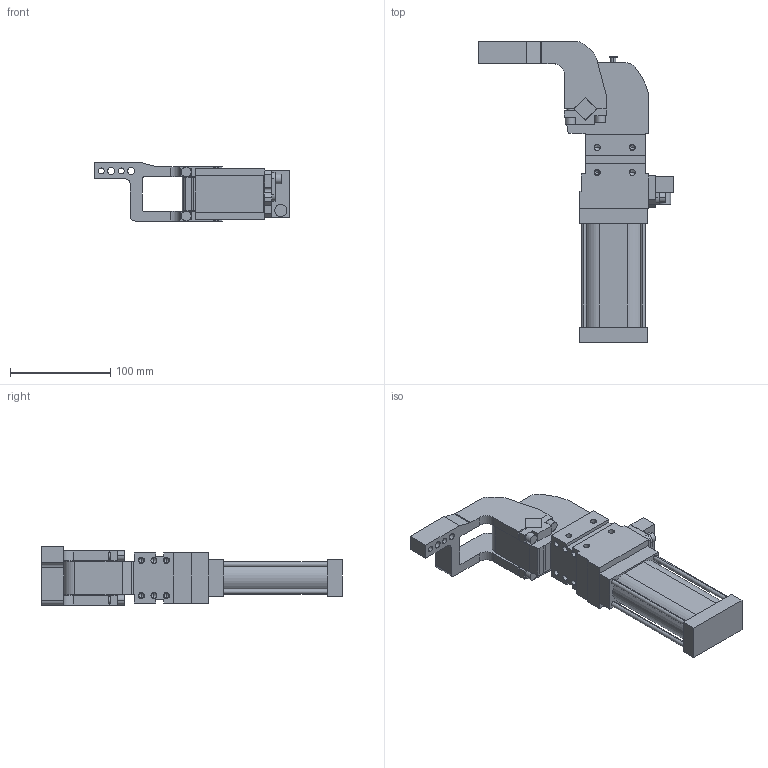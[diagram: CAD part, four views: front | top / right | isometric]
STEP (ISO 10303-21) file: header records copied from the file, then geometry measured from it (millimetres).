
FILE_DESCRIPTION (( 'STEP AP214' ), '1' );
FILE_NAME ('cpl40v3si1g_103.STEP', '2021-05-25T10:47:30', ( '' ), ( '' ), 'SwSTEP 2.0', 'SolidWorks 2021', '' );
FILE_SCHEMA (( 'AUTOMOTIVE_DESIGN' ));
Length unit declared in the file: millimetre
Products named in the file (5): cpl40v3si1g_103; piastra_blocchetto_cpl40; blocchetto_VEP_0_cpl40; leva_v3s_cpl40; meccanica_cpl40
Assembly tree (4 placements, depth 2):
  cpl40v3si1g_103
    meccanica_cpl40
    blocchetto_VEP_0_cpl40
    piastra_blocchetto_cpl40
    leva_v3s_cpl40
Bounding box: 195.5 x 300 x 58 mm (x, y, z)
Volume: 792032 mm3; surface area: 122330.3 mm2
Topology: 5 solids, 5 shells, 417 faces, 1067 edges, 667 vertices
Faces by surface type: plane 220, cylinder 149, cone 48
Entity records: 13886 total; most frequent: DIRECTION 2197, CARTESIAN_POINT 2112, ORIENTED_EDGE 2042, EDGE_CURVE 1021, AXIS2_PLACEMENT_3D 752, VECTOR 693, LINE 693, VERTEX_POINT 667
